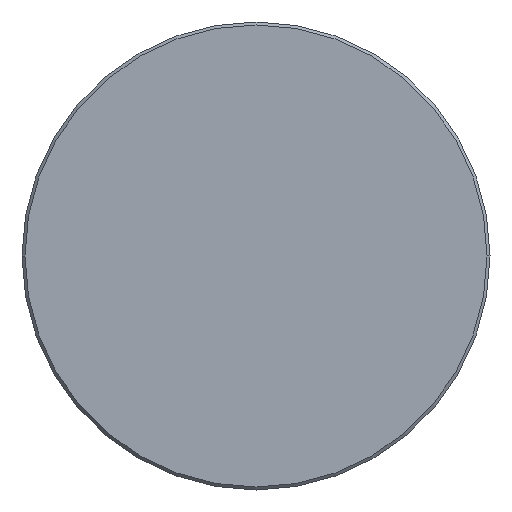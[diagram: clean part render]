
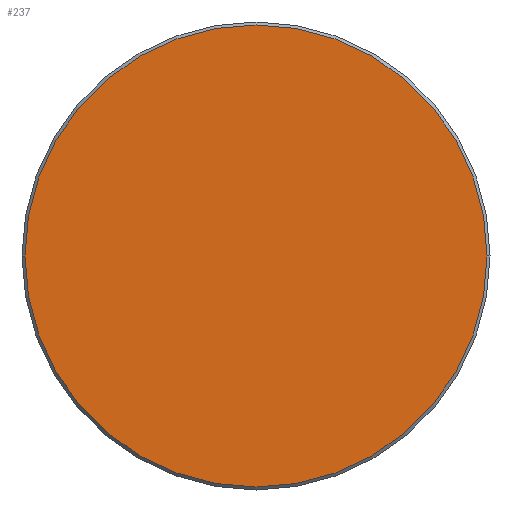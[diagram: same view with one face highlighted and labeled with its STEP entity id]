
A CAD part, left-side view. The second image highlights one B-rep face of the part: STEP entity #237.
In plain terms, the highlighted planar face has unit normal (-1, 0, 0).
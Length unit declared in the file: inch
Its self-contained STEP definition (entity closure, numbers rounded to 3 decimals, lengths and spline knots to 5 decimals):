
#10 = DIRECTION ( 'NONE',  ( 0., -1., 0. ) ) ;
#24 = CARTESIAN_POINT ( 'NONE',  ( 0., -0.3085, 0. ) ) ;
#74 = AXIS2_PLACEMENT_3D ( 'NONE', #218, #253, #246 ) ;
#115 = AXIS2_PLACEMENT_3D ( 'NONE', #182, #210, #10 ) ;
#141 = FACE_OUTER_BOUND ( 'NONE', #157, .T. ) ;
#157 = EDGE_LOOP ( 'NONE', ( #306, #345 ) ) ;
#171 = PLANE ( 'NONE',  #74 ) ;
#174 = EDGE_CURVE ( 'NONE', #356, #233, #346, .T. ) ;
#182 = CARTESIAN_POINT ( 'NONE',  ( 0., 0., 0. ) ) ;
#210 = DIRECTION ( 'NONE',  ( -1., 0., 0. ) ) ;
#218 = CARTESIAN_POINT ( 'NONE',  ( 0., 0., 0. ) ) ;
#223 = DIRECTION ( 'NONE',  ( -1., 0., 0. ) ) ;
#233 = VERTEX_POINT ( 'NONE', #241 ) ;
#236 = AXIS2_PLACEMENT_3D ( 'NONE', #311, #223, #365 ) ;
#237 = ADVANCED_FACE ( 'NONE', ( #141 ), #171, .T. ) ;
#238 = CIRCLE ( 'NONE', #236, 0.3085 ) ;
#241 = CARTESIAN_POINT ( 'NONE',  ( 0., 0.3085, 0. ) ) ;
#246 = DIRECTION ( 'NONE',  ( 0., -1., 0. ) ) ;
#253 = DIRECTION ( 'NONE',  ( -1., 0., 0. ) ) ;
#306 = ORIENTED_EDGE ( 'NONE', *, *, #316, .T. ) ;
#311 = CARTESIAN_POINT ( 'NONE',  ( 0., 0., 0. ) ) ;
#316 = EDGE_CURVE ( 'NONE', #233, #356, #238, .T. ) ;
#345 = ORIENTED_EDGE ( 'NONE', *, *, #174, .T. ) ;
#346 = CIRCLE ( 'NONE', #115, 0.3085 ) ;
#356 = VERTEX_POINT ( 'NONE', #24 ) ;
#365 = DIRECTION ( 'NONE',  ( 0., -1., 0. ) ) ;
